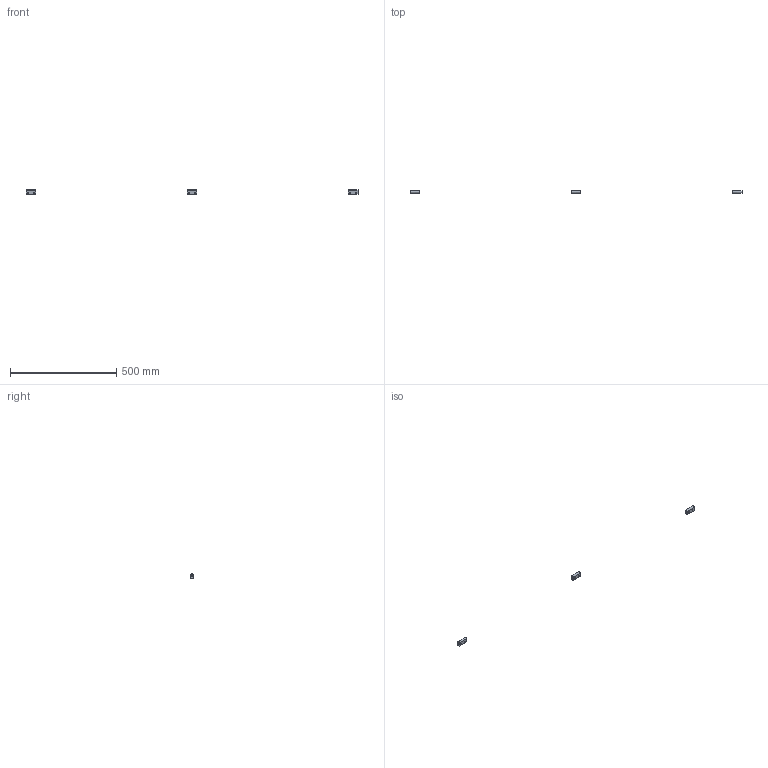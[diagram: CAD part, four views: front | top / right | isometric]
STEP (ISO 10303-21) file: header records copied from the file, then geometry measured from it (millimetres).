
FILE_DESCRIPTION(/* description */ (''),/* implementation_level */ '2;1');
FILE_NAME(/* name */ 'FR62BF~1',/* time_stamp */ '2014-02-14T19:35:44+01:00',/* author */ (''),/* organization */ (''),/* preprocessor_version */ 'ST-DEVELOPER v14',/* originating_system */ '',/* authorisation */ '');
FILE_SCHEMA (('AUTOMOTIVE_DESIGN'));
Length unit declared in the file: millimetre
Products named in the file (2): Document; door hinge
Assembly tree (2 placements, depth 2):
  Document
    door hinge  x2
Bounding box: 1563.92 x 10 x 22.97 mm (x, y, z)
Volume: 24410.9 mm3; surface area: 13485 mm2
Topology: 3 solids, 3 shells, 60 faces, 162 edges, 108 vertices
Faces by surface type: bspline 54, plane 6
Entity records: 4691 total; most frequent: CARTESIAN_POINT 3305, ORIENTED_EDGE 216, PCURVE 216, DEFINITIONAL_REPRESENTATION 216, B_SPLINE_CURVE_WITH_KNOTS 208, SURFACE_CURVE 108, EDGE_CURVE 108, VERTEX_POINT 72
